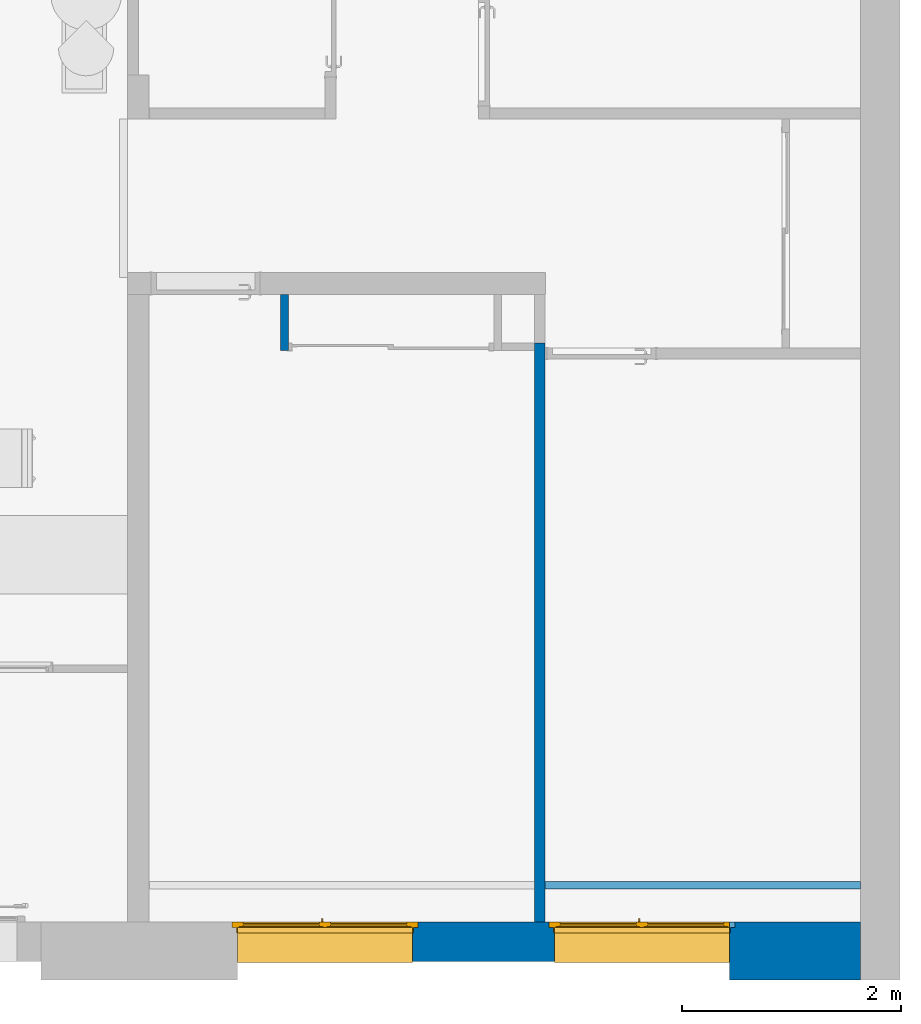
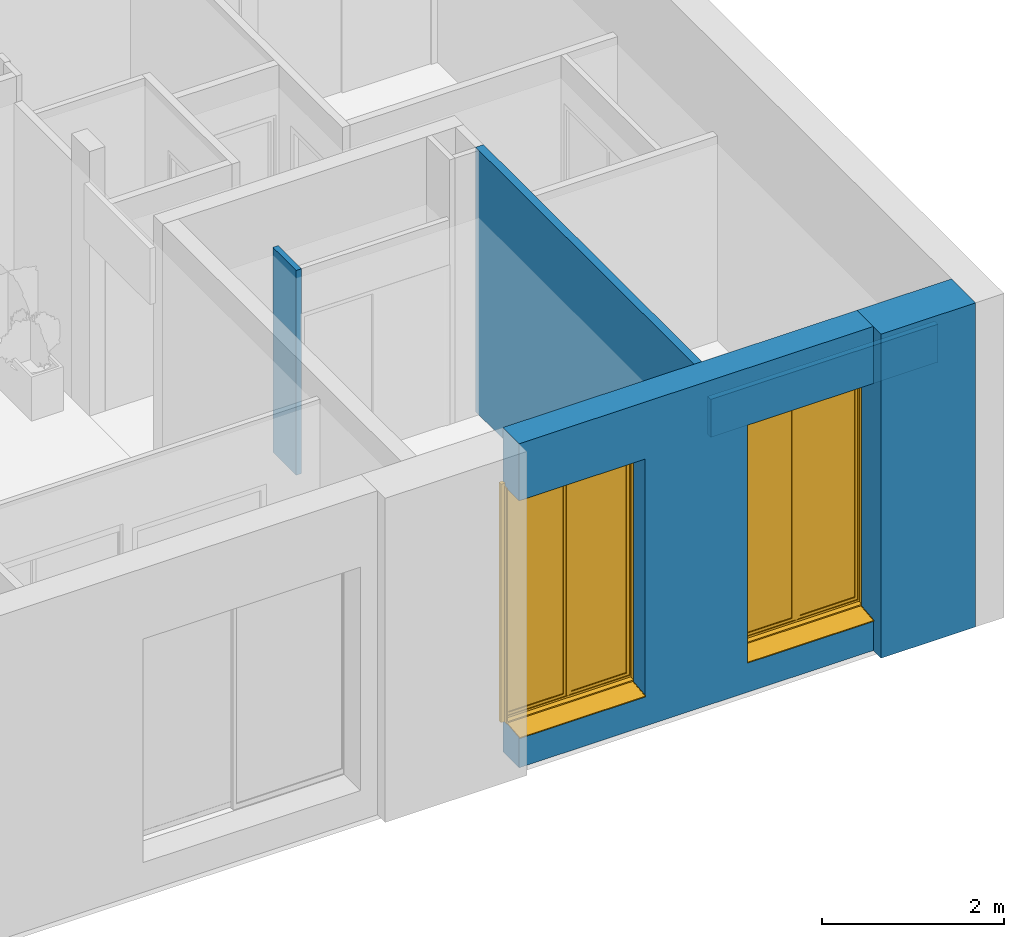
# One storey, part 13 of 32: 5 walls, 2 windows, 4 openings.
"""IFC2X3 building model written with IfcOpenShell, lengths in metres."""

from ifc_helpers import new_model, entity, si_unit, converted_unit, derived_unit, direction, frame, frame_2d, origin, origin_2d_with_axis, place, context, subcontext, project, spatial, polyline, circle_curve, parameter, trimmed, segment, composite_curve, rectangle, outline, extrude, faceted_brep, source, transform, mapped, material, material_list, layer, layer_set, layer_usage, type_object, type_shapes, element, fill, save


model = new_model("IFC2X3")

# Units and contexts
model_context = context("Model", 3, precision=1e-05, world=origin(), true_north=direction((6.12303176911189e-17, 1.0)))
plan_context = context("Plan", 3, precision=1e-05, world=origin(), true_north=direction((6.12303176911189e-17, 1.0)))
body_context = subcontext(model_context, "Body", "Model", "MODEL_VIEW")
ifc_project = project(units=[si_unit("LENGTHUNIT", "METRE"), si_unit("AREAUNIT", "SQUARE_METRE"), si_unit("VOLUMEUNIT", "CUBIC_METRE"), converted_unit("PLANEANGLEUNIT", "DEGREE", entity("IfcRatioMeasure", 0.0174532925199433), si_unit("PLANEANGLEUNIT", "RADIAN"), dimensions=[0, 0, 0, 0, 0, 0, 0]), si_unit("MASSUNIT", "GRAM", prefix="KILO"), derived_unit("MASSDENSITYUNIT", [(si_unit("MASSUNIT", "GRAM", prefix="KILO"), 1), (si_unit("LENGTHUNIT", "METRE"), -3)]), derived_unit("MOMENTOFINERTIAUNIT", [(si_unit("LENGTHUNIT", "METRE"), 4)]), si_unit("TIMEUNIT", "SECOND"), si_unit("FREQUENCYUNIT", "HERTZ"), si_unit("THERMODYNAMICTEMPERATUREUNIT", "DEGREE_CELSIUS"), derived_unit("THERMALTRANSMITTANCEUNIT", [(si_unit("MASSUNIT", "GRAM", prefix="KILO"), 1), (si_unit("THERMODYNAMICTEMPERATUREUNIT", "KELVIN"), -1), (si_unit("TIMEUNIT", "SECOND"), -3)]), derived_unit("VOLUMETRICFLOWRATEUNIT", [(si_unit("LENGTHUNIT", "METRE"), 3), (si_unit("TIMEUNIT", "SECOND"), -1)]), si_unit("ELECTRICCURRENTUNIT", "AMPERE"), si_unit("ELECTRICVOLTAGEUNIT", "VOLT"), si_unit("POWERUNIT", "WATT"), si_unit("FORCEUNIT", "NEWTON", prefix="KILO"), si_unit("ILLUMINANCEUNIT", "LUX"), si_unit("LUMINOUSFLUXUNIT", "LUMEN"), si_unit("LUMINOUSINTENSITYUNIT", "CANDELA"), derived_unit("USERDEFINED", [(si_unit("MASSUNIT", "GRAM", prefix="KILO"), -1), (si_unit("LENGTHUNIT", "METRE"), -2), (si_unit("TIMEUNIT", "SECOND"), 3), (si_unit("LUMINOUSFLUXUNIT", "LUMEN"), 1)]), derived_unit("LINEARVELOCITYUNIT", [(si_unit("LENGTHUNIT", "METRE"), 1), (si_unit("TIMEUNIT", "SECOND"), -1)]), si_unit("PRESSUREUNIT", "PASCAL"), derived_unit("USERDEFINED", [(si_unit("LENGTHUNIT", "METRE"), -2), (si_unit("MASSUNIT", "GRAM", prefix="KILO"), 1), (si_unit("TIMEUNIT", "SECOND"), -2)]), derived_unit("LINEARFORCEUNIT", [(si_unit("MASSUNIT", "GRAM", prefix="KILO"), 1), (si_unit("LENGTHUNIT", "METRE"), 1), (si_unit("TIMEUNIT", "SECOND"), -2), (si_unit("LENGTHUNIT", "METRE"), -1)]), derived_unit("PLANARFORCEUNIT", [(si_unit("MASSUNIT", "GRAM", prefix="KILO"), 1), (si_unit("LENGTHUNIT", "METRE"), 1), (si_unit("TIMEUNIT", "SECOND"), -2), (si_unit("LENGTHUNIT", "METRE"), -2)])], contexts=[model_context, plan_context])

# Site, building, storey
site_placement = place(None, origin())
site = spatial("IfcSite", under=ifc_project, at=site_placement, Name="Default", CompositionType="ELEMENT")
building_placement = place(site_placement, origin())
building = spatial("IfcBuilding", under=site, at=building_placement, CompositionType="ELEMENT")
storey_placement = place(building_placement, origin())
storey = spatial("IfcBuildingStorey", under=building, at=storey_placement, Name="0 Mairie RDC 0.00", CompositionType="ELEMENT", Elevation=-1.94916083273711e-14)

# Wall, opening
ifc_material_1 = material(Name="Plâtre")
ifc_layer_1 = layer(ifc_material_1, 0.0125)
ifc_layer_2 = layer(ifc_material_1, 0.0125)
ifc_material_2 = material(Name="Maçonnerie - Isolant")
ifc_layer_3 = layer(ifc_material_2, 0.05)
ifc_layer_4 = layer(ifc_material_1, 0.0125)
ifc_layer_5 = layer(ifc_material_1, 0.0125)
ifc_layer_set_1 = layer_set([ifc_layer_1, ifc_layer_2, ifc_layer_3, ifc_layer_4, ifc_layer_5], Name="Mur de base:A cloison placostil 98 sèche")
ifc_layer_usage_1 = layer_usage(ifc_layer_set_1, "AXIS2", "NEGATIVE", 0.05)
wall_type_1 = type_object("IfcWallType", Name="Murs : Mur de base : A cloison placostil 98 sèche", PredefinedType="STANDARD", material=ifc_layer_set_1)
wall_1_placement = place(storey_placement, frame((-1.15639222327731, -13.9785662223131, 0.0), z_axis=(0.0, 0.0, 1.0), x_axis=(0.0, 1.0, 0.0)))
wall_1 = element("IfcWallStandardCase", 1, at=wall_1_placement, inside=storey, type_object=wall_type_1, material=ifc_layer_usage_1, Name="Murs : Mur de base : A cloison placostil 98 sèche", ObjectType="Mur de base:A cloison placostil 98 sèche", context=body_context, shape_type="SweptSolid", body=[
    extrude(rectangle(XDim=5.29680921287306, YDim=0.1, at=frame_2d((2.64840460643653, 0.0), x_axis=(-1.0, 0.0))), origin(), (0.0, 0.0, 1.0), 3.55),
])
opening_1_placement = place(wall_1_placement, frame((5.14746237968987, -0.0649999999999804, 0.0)))
element("IfcOpeningElement", 2, at=opening_1_placement, cuts=wall_1, Name="Murs : Mur de base : A cloison placostil 98 sèche", ObjectType="Opening", context=body_context, shape_type="SweptSolid", body=[
    extrude(rectangle(XDim=2.075, YDim=0.1, at=frame_2d((5.41233724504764e-16, 0.0), x_axis=(0.0, 1.0))), frame((0.0499999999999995, -1.0, 1.0375), z_axis=(0.0, 1.0, 0.0), x_axis=(-1.0, 0.0, 0.0)), (0.0, 0.0, 1.0), 1.0),
])

# Walls
ifc_layer_6 = layer(ifc_material_1, 0.01)
ifc_layer_7 = layer(ifc_material_2, 0.05)
ifc_layer_8 = layer(ifc_material_1, 0.01)
ifc_layer_set_2 = layer_set([ifc_layer_6, ifc_layer_7, ifc_layer_8], Name="Mur de base:A cloison placostil 72 sèche")
ifc_layer_usage_2 = layer_usage(ifc_layer_set_2, "AXIS2", "NEGATIVE", 0.035)
wall_type_2 = type_object("IfcWallType", Name="Murs : Mur de base : A cloison placostil 72 sèche", PredefinedType="STANDARD", material=ifc_layer_set_2)
wall_2_placement = place(storey_placement, frame((-3.49104062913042, -8.75175700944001, 0.0), z_axis=(0.0, 0.0, 1.0), x_axis=(0.0, 1.0, 0.0)))
element("IfcWallStandardCase", 3, at=wall_2_placement, inside=storey, type_object=wall_type_2, material=ifc_layer_usage_2, Name="Murs : Mur de base : A cloison placostil 72 sèche", ObjectType="Mur de base:A cloison placostil 72 sèche", context=body_context, shape_type="SweptSolid", body=[
    extrude(rectangle(XDim=0.513488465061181, YDim=0.0700000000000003, at=frame_2d((0.25674423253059, 0.0), x_axis=(-1.0, 0.0))), origin(), (0.0, 0.0, 1.0), 2.75),
])
ifc_layer_usage_3 = layer_usage(ifc_layer_set_2, "AXIS2", "POSITIVE", -0.035)
wall_3_placement = place(storey_placement, frame((-1.10639222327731, -13.6435662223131, 2.65)))
element("IfcWallStandardCase", 4, at=wall_3_placement, inside=storey, type_object=wall_type_2, material=ifc_layer_usage_3, Name="Murs : Mur de base : A cloison placostil 72 sèche", ObjectType="Mur de base:A cloison placostil 72 sèche", context=body_context, shape_type="SweptSolid", body=[
    extrude(rectangle(XDim=2.88400782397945, YDim=0.0700000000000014, at=frame_2d((1.44200391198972, 3.81639164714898e-16), x_axis=(-1.0, 0.0))), origin(), (0.0, 0.0, 1.0), 0.510000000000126),
])

# Wall, openings, windows
ifc_material_3 = material(Name="Maçonnerie - Enduit")
ifc_layer_9 = layer(ifc_material_3, 0.02)
ifc_material_4 = material(Name="Béton, coulé sur place")
ifc_layer_10 = layer(ifc_material_4, 0.2)
ifc_material_5 = material(Name="Vide")
ifc_layer_11 = layer(ifc_material_5, 0.01)
ifc_layer_12 = layer(ifc_material_2, 0.12)
ifc_layer_13 = layer(ifc_material_1, 0.01)
ifc_layer_set_3 = layer_set([ifc_layer_9, ifc_layer_10, ifc_layer_11, ifc_layer_12, ifc_layer_13], Name="Mur de base:A Enduit 2 + Béton 20 + vide 1 +  Doublage 13")
ifc_layer_usage_4 = layer_usage(ifc_layer_set_3, "AXIS2", "POSITIVE", -0.18)
wall_type_3 = type_object("IfcWallType", Name="Murs : Mur de base : A Enduit 2 + Béton 20 + vide 1 +  Doublage 13", PredefinedType="STANDARD", material=ifc_layer_set_3)
wall_4_placement = place(storey_placement, frame((-3.92016256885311, -14.1585662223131, -0.400000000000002)))
wall_4 = element("IfcWallStandardCase", 5, at=wall_4_placement, inside=storey, type_object=wall_type_3, material=ifc_layer_usage_4, Name="Murs : Mur de base : A Enduit 2 + Béton 20 + vide 1 +  Doublage 13", ObjectType="Mur de base:A Enduit 2 + Béton 20 + vide 1 +  Doublage 13", context=body_context, shape_type="SweptSolid", body=[
    extrude(rectangle(XDim=4.49771747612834, YDim=0.36, at=frame_2d((2.24885873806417, 3.33066907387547e-16), x_axis=(-1.0, 0.0))), origin(), (0.0, 0.0, 1.0), 4.35000000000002),
])
opening_2_placement = place(wall_4_placement, frame((-0.0500000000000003, -0.500000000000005, 0.400000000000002)))
opening_2 = element("IfcOpeningElement", 6, at=opening_2_placement, cuts=wall_4, Name="Murs : Mur de base : A Enduit 2 + Béton 20 + vide 1 +  Doublage 13", ObjectType="Opening", context=body_context, shape_type="Brep", body=[
    faceted_brep([(1.65, 0.599999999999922, 0.0350000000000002), (1.65, 0.579999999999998, 0.0350000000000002), (1.65, 0.579999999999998, 3.185), (1.65, 0.0, 3.185), (1.65, 0.0, 0.0), (1.65, 0.266997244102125, 0.0), (0.0500000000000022, 1.0, 0.0350000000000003), (0.0500000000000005, 0.680000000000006, 0.0350000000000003), (0.0500000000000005, 0.680000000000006, 3.185), (0.0500000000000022, 1.0, 3.185), (1.65, 1.0, 0.0350000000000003), (1.65, 0.680000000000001, 0.0350000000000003), (1.7, 0.680000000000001, 0.0350000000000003), (1.7, 0.630000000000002, 0.0350000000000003), (1.66, 0.630000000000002, 0.0350000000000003), (1.66, 0.579999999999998, 0.0350000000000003), (0.05, 0.599999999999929, 0.0349999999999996), (0.0499999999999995, 0.580000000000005, 0.0350000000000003), (0.0399999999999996, 0.580000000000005, 0.0350000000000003), (0.0399999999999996, 0.630000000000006, 0.0350000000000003), (0.0, 0.630000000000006, 0.0350000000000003), (0.0, 0.680000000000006, 0.0350000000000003), (1.65, 1.0, 3.185), (0.05, 0.580000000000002, 3.185), (0.0499999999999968, 0.0, 3.185), (0.0499999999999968, 0.0, 0.0), (0.0499999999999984, 0.266997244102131, 0.0), (1.7, 0.680000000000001, 3.235), (1.7, 0.630000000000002, 3.235), (0.0, 0.630000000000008, 3.235), (0.0399999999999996, 0.630000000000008, 3.195), (1.66, 0.630000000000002, 3.195), (1.66, 0.579999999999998, 3.195), (0.0399999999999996, 0.580000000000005, 3.195), (1.65, 0.680000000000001, 3.185), (0.0, 0.680000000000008, 3.235)], [[[0, 1, 2, 3, 4, 5]], [[6, 7, 8, 9]], [[10, 11, 12, 13, 14, 15, 1, 0, 16, 17, 18, 19, 20, 21, 7, 6]], [[10, 6, 9, 22]], [[3, 2, 23, 24]], [[3, 24, 25, 4]], [[4, 25, 26, 5]], [[5, 26, 16, 0]], [[12, 27, 28, 13]], [[13, 28, 29, 20, 19, 30, 31, 14]], [[14, 31, 32, 15]], [[15, 32, 33, 18, 17, 23, 2, 1]], [[11, 34, 8, 7, 21, 35, 27, 12]], [[27, 35, 29, 28]], [[30, 33, 32, 31]], [[29, 35, 21, 20]], [[19, 18, 33, 30]], [[9, 8, 34, 22]], [[24, 23, 17, 16, 26, 25]], [[22, 34, 11, 10]]]),
])
opening_3_placement = place(wall_4_placement, frame((2.84777816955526, -0.500000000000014, 0.400000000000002)))
opening_3 = element("IfcOpeningElement", 7, at=opening_3_placement, cuts=wall_4, Name="Murs : Mur de base : A Enduit 2 + Béton 20 + vide 1 +  Doublage 13", ObjectType="Opening", context=body_context, shape_type="Brep", body=[
    faceted_brep([(1.65, 0.59999999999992, 0.035), (1.65, 0.579999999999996, 0.035), (1.65, 0.579999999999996, 3.185), (1.65, 0.0, 3.185), (1.65, 0.0, 0.0), (1.65, 0.266997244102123, 0.0), (0.050000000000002, 1.0, 0.0350000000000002), (0.0500000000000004, 0.680000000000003, 0.0350000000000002), (0.0500000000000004, 0.680000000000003, 3.185), (0.050000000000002, 1.0, 3.185), (1.65, 1.0, 0.0350000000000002), (1.65, 0.679999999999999, 0.0350000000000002), (1.7, 0.679999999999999, 0.0350000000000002), (1.7, 0.63, 0.0350000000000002), (1.66, 0.63, 0.0350000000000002), (1.66, 0.579999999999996, 0.0350000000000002), (0.05, 0.599999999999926, 0.0349999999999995), (0.0499999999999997, 0.580000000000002, 0.0350000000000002), (0.0399999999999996, 0.580000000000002, 0.0350000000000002), (0.0399999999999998, 0.630000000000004, 0.0350000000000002), (0.0, 0.630000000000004, 0.0350000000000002), (0.0, 0.680000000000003, 0.0350000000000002), (1.65, 1.0, 3.185), (0.0499999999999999, 0.58, 3.185), (0.0499999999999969, 0.0, 3.185), (0.0499999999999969, 0.0, 0.0), (0.0499999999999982, 0.266997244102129, 0.0), (1.7, 0.679999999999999, 3.235), (1.7, 0.63, 3.235), (0.0, 0.630000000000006, 3.235), (0.0399999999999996, 0.630000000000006, 3.195), (1.66, 0.63, 3.195), (1.66, 0.579999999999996, 3.195), (0.0399999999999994, 0.580000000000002, 3.195), (1.65, 0.679999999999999, 3.185), (0.0, 0.680000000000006, 3.235)], [[[0, 1, 2, 3, 4, 5]], [[6, 7, 8, 9]], [[10, 11, 12, 13, 14, 15, 1, 0, 16, 17, 18, 19, 20, 21, 7, 6]], [[10, 6, 9, 22]], [[3, 2, 23, 24]], [[3, 24, 25, 4]], [[4, 25, 26, 5]], [[5, 26, 16, 0]], [[12, 27, 28, 13]], [[13, 28, 29, 20, 19, 30, 31, 14]], [[14, 31, 32, 15]], [[15, 32, 33, 18, 17, 23, 2, 1]], [[11, 34, 8, 7, 21, 35, 27, 12]], [[27, 35, 29, 28]], [[30, 33, 32, 31]], [[29, 35, 21, 20]], [[19, 18, 33, 30]], [[9, 8, 34, 22]], [[24, 23, 17, 16, 26, 25]], [[22, 34, 11, 10]]]),
])
ifc_material_6 = material(Name="PVC Blanc")
ifc_material_7 = material(Name="Fenêtre - Vitrage")
ifc_material_list = material_list([ifc_material_7, ifc_material_6])
window_style = type_object("IfcWindowStyle", Name="Fenêtres : PF 2 Vantaux - Droits : 1.60 x 3.15", ConstructionType="NOTDEFINED", OperationType="DOUBLE_PANEL_VERTICAL", ParameterTakesPrecedence=False, Sizeable=False, material=ifc_material_list)
shared_shape = source(origin(), body_context, "Body", "SolidModel", [
    extrude(outline(polyline([(-0.0233345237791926, -0.0332340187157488), (-0.0162634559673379, -0.0332340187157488), (0.0332340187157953, 0.0162634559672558), (0.0332340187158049, 0.0233345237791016), (0.0233345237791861, 0.0332340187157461), (0.0162634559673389, 0.0332340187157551), (-0.0332340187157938, -0.0162634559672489), (-0.0332340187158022, -0.0233345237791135), (-0.0233345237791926, -0.0332340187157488)])), frame((0.875000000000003, 0.314000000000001, 1.1), z_axis=(0.0, 1.0, 0.0), x_axis=(0.707106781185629, 0.0, -0.707106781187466)), (0.0, 0.0, 1.0), 0.00599999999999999),
    extrude(outline(polyline([(-0.145647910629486, 0.00157280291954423), (-0.14680589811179, -0.00944471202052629), (-0.141778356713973, -0.0094447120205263), (-0.141169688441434, -0.003653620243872), (0.145429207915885, -0.00365362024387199), (0.146997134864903, 0.0112642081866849), (0.142024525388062, 0.0117868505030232), (0.140950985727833, 0.00157280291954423), (-0.145647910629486, 0.00157280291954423)])), frame((0.05, 0.545014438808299, 0.0234321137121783), z_axis=(-1.0, 0.0, 0.0), x_axis=(0.0, -0.994521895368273, 0.104528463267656)), (0.0, 0.0, -1.0), 1.6),
    extrude(outline(composite_curve([segment(polyline([(-0.014354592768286, -0.11472792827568), (-0.0129286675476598, -0.11472792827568)]), True, "CONTINUOUS"), segment(trimmed(circle_curve(frame_2d((-0.0129286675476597, -0.11072792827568), x_axis=(0.0, 1.0)), 0.004), [parameter(180.0)], [parameter(264.0)], True, "PARAMETER"), True, "CONTINUOUS"), segment(polyline([(-0.00895057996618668, -0.111146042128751), (0.0206306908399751, 0.170300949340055)]), True, "CONTINUOUS"), segment(polyline([(0.0206306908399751, 0.170300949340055), (0.0156031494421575, 0.170300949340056)]), True, "CONTINUOUS"), segment(polyline([(0.0156031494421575, 0.170300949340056), (-0.014354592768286, -0.11472792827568)]), True, "CONTINUOUS")], self_intersect=False)), frame((0.0499999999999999, 0.575300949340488, 0.0241265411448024), z_axis=(1.0, 0.0, 0.0), x_axis=(0.0, 0.0, 1.0)), (0.0, 0.0, 1.0), 0.00499999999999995),
    extrude(outline(composite_curve([segment(polyline([(-0.0143545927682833, -0.11472792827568), (-0.0129286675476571, -0.11472792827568)]), True, "CONTINUOUS"), segment(trimmed(circle_curve(frame_2d((-0.0129286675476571, -0.11072792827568), x_axis=(0.0, 1.0)), 0.004), [parameter(180.0)], [parameter(264.0)], True, "PARAMETER"), True, "CONTINUOUS"), segment(polyline([(-0.00895057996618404, -0.111146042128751), (0.020630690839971, 0.170300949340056)]), True, "CONTINUOUS"), segment(polyline([(0.020630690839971, 0.170300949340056), (0.0156031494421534, 0.170300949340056)]), True, "CONTINUOUS"), segment(polyline([(0.0156031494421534, 0.170300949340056), (-0.0143545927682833, -0.11472792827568)]), True, "CONTINUOUS")], self_intersect=False)), frame((1.645, 0.575300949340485, 0.0241265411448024), z_axis=(1.0, 0.0, 0.0), x_axis=(0.0, 0.0, 1.0)), (0.0, 0.0, 1.0), 0.00499999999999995),
    extrude(outline(polyline([(-0.400000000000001, -1.55), (0.400000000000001, -1.55), (0.400000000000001, 1.55), (-0.400000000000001, 1.55), (-0.400000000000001, -1.55)]), holes=[polyline([(0.350000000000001, -1.5), (-0.350000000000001, -1.5), (-0.350000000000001, 1.5), (0.350000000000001, 1.5), (0.350000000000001, -1.5)])]), frame((0.449999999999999, 0.320000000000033, 1.635), z_axis=(0.0, 1.0, 0.0), x_axis=(-1.0, 0.0, 0.0)), (0.0, 0.0, 1.0), 0.0399999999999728),
    extrude(rectangle(XDim=0.012, YDim=0.700000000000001, at=origin_2d_with_axis()), frame((1.25, 0.339999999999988, 0.135), z_axis=(0.0, 0.0, 1.0), x_axis=(0.0, -1.0, 0.0)), (0.0, 0.0, 1.0), 3.0),
    extrude(rectangle(XDim=0.012, YDim=0.700000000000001, at=origin_2d_with_axis()), frame((0.449999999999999, 0.339999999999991, 0.135), z_axis=(0.0, 0.0, 1.0), x_axis=(0.0, -1.0, 0.0)), (0.0, 0.0, 1.0), 3.0),
    extrude(outline(polyline([(-0.399999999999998, -1.55), (0.400000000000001, -1.55), (0.399999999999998, 1.55), (-0.400000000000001, 1.55), (-0.399999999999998, -1.55)]), holes=[polyline([(0.350000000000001, -1.5), (-0.349999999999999, -1.5), (-0.350000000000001, 1.5), (0.349999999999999, 1.5), (0.350000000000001, -1.5)])]), frame((1.25, 0.319999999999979, 1.635), z_axis=(0.0, 1.0, 0.0), x_axis=(-1.0, 0.0, 0.0)), (0.0, 0.0, 1.0), 0.0399999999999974),
    extrude(outline(polyline([(-1.5775, -0.81), (1.5825, -0.81), (1.5825, 0.81), (-1.5775, 0.810000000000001), (-1.5775, 0.8), (1.5725, 0.8), (1.5725, -0.8), (-1.5775, -0.8), (-1.5775, -0.81)])), frame((0.85, 0.37, 1.6125), z_axis=(0.0, 1.0, 0.0), x_axis=(0.0, 0.0, 1.0)), (0.0, 0.0, 1.0), 0.0500000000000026),
    extrude(rectangle(XDim=0.0400000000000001, YDim=0.00799999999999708, at=frame_2d((0.0, 8.23993651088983e-18), x_axis=(1.0, 0.0))), frame((0.85, 0.363999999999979, 0.0999999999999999), z_axis=(0.0, 0.0, 1.0), x_axis=(-1.0, 0.0, 0.0)), (0.0, 0.0, 1.0), 3.07),
    faceted_brep([(0.880646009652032, 0.313999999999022, 1.12203392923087), (0.882033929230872, 0.313999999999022, 1.12064600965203), (0.882033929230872, 0.313999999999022, 1.10933230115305), (0.880667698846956, 0.313999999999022, 1.10796607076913), (0.869332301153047, 0.313999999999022, 1.10796607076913), (0.867966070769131, 0.313999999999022, 1.10933230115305), (0.867966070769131, 0.313999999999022, 1.12064600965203), (0.869353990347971, 0.313999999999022, 1.12203392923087), (0.880646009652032, 0.301086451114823, 1.12203392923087), (0.882033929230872, 0.301661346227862, 1.12064600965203), (0.882033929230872, 0.288353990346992, 1.10733865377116), (0.882033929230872, 0.288353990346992, 1.02), (0.882033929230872, 0.299667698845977, 1.02), (0.882033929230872, 0.299667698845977, 1.10265236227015), (0.882033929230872, 0.306347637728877, 1.10933230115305), (0.880667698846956, 0.306913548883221, 1.10796607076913), (0.869332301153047, 0.306913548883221, 1.10796607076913), (0.867966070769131, 0.306347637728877, 1.10933230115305), (0.867966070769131, 0.299667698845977, 1.10265236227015), (0.867966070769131, 0.299667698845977, 1.02), (0.867966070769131, 0.288353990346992, 1.02), (0.867966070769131, 0.288353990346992, 1.10733865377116), (0.867966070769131, 0.301661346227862, 1.12064600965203), (0.869353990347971, 0.301086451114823, 1.12203392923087), (0.880646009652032, 0.286966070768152, 1.1079135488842), (0.880667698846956, 0.301033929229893, 1.1020864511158), (0.869332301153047, 0.301033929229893, 1.1020864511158), (0.869353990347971, 0.286966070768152, 1.1079135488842), (0.880646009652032, 0.286966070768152, 1.02), (0.869353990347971, 0.286966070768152, 1.02), (0.869332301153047, 0.301033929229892, 1.02), (0.880667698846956, 0.301033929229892, 1.02)], [[[0, 1, 2, 3, 4, 5, 6, 7]], [[1, 0, 8, 9]], [[2, 1, 9, 10, 11, 12, 13, 14]], [[3, 2, 14, 15]], [[4, 3, 15, 16]], [[5, 4, 16, 17]], [[6, 5, 17, 18, 19, 20, 21, 22]], [[7, 6, 22, 23]], [[0, 7, 23, 8]], [[9, 8, 24, 10]], [[15, 14, 13, 25]], [[16, 15, 25, 26]], [[17, 16, 26, 18]], [[23, 22, 21, 27]], [[8, 23, 27, 24]], [[28, 29, 20, 19, 30, 31, 12, 11]], [[10, 24, 28, 11]], [[25, 13, 12, 31]], [[26, 25, 31, 30]], [[18, 26, 30, 19]], [[27, 21, 20, 29]], [[24, 27, 29, 28]]]),
    faceted_brep([(0.0, 0.320000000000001, 0.0350000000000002), (0.0, 0.370000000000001, 0.0350000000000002), (0.0499999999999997, 0.370000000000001, 0.0350000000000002), (0.0499999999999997, 0.399999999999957, 0.0350000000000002), (1.65, 0.399999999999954, 0.0350000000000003), (1.65, 0.370000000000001, 0.0350000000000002), (1.7, 0.370000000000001, 0.0350000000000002), (1.7, 0.320000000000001, 0.0350000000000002), (0.0, 0.320000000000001, 3.235), (0.0, 0.370000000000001, 3.235), (1.7, 0.370000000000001, 3.235), (1.65, 0.370000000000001, 0.0743761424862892), (0.0499999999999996, 0.370000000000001, 0.0743761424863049), (0.0649999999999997, 0.370000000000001, 3.17), (0.0649999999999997, 0.370000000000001, 0.0999999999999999), (1.635, 0.370000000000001, 0.1), (1.635, 0.370000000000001, 3.17), (0.0499999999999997, 0.419999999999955, 0.060978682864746), (0.0499999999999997, 0.419999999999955, 0.0450000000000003), (0.0499999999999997, 0.40999999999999, 0.0450000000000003), (0.0499999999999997, 0.40999999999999, 0.050000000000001), (0.0499999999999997, 0.399999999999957, 0.050000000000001), (1.65, 0.399999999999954, 0.050000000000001), (1.65, 0.409999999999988, 0.050000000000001), (1.65, 0.409999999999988, 0.0450000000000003), (1.65, 0.419999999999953, 0.0450000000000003), (1.65, 0.419999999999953, 0.060978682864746), (1.7, 0.320000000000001, 3.235), (1.65, 0.320000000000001, 3.185), (1.65, 0.32, 0.0850000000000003), (0.0499999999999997, 0.320000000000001, 0.0850000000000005), (0.0499999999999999, 0.320000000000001, 3.185), (0.0649999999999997, 0.360000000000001, 3.17), (0.0649999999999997, 0.360000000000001, 0.0999999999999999), (1.635, 0.360000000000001, 0.1), (1.635, 0.360000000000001, 3.17), (1.65, 0.360000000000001, 3.185), (0.0499999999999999, 0.360000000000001, 3.185), (0.0499999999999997, 0.360000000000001, 0.0850000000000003), (1.65, 0.360000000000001, 0.0850000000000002)], [[[0, 1, 2, 3, 4, 5, 6, 7]], [[1, 0, 8, 9]], [[1, 9, 10, 6, 5, 11, 12, 2], [13, 14, 15, 16]], [[12, 17, 18, 19, 20, 21, 3, 2]], [[3, 21, 22, 4]], [[4, 22, 23, 24, 25, 26, 11, 5]], [[6, 10, 27, 7]], [[0, 7, 27, 8], [28, 29, 30, 31]], [[13, 32, 33, 14]], [[33, 34, 15, 14]], [[35, 16, 15, 34]], [[17, 12, 11, 26]], [[36, 37, 38, 39], [32, 35, 34, 33]], [[38, 37, 31, 30]], [[30, 29, 39, 38]], [[28, 36, 39, 29]], [[18, 17, 26, 25]], [[19, 18, 25, 24]], [[20, 19, 24, 23]], [[21, 20, 23, 22]], [[13, 16, 35, 32]], [[37, 36, 28, 31]], [[10, 9, 8, 27]]]),
])
type_shapes(window_style, [shared_shape])
window_1_placement = place(opening_2_placement, frame((1.7, 1.0, 0.0), z_axis=(0.0, 0.0, 1.0), x_axis=(-1.0, 0.0, 0.0)))
window_1 = element("IfcWindow", 8, at=window_1_placement, inside=storey, type_object=window_style, material=ifc_material_6, Name="Fenêtres : PF 2 Vantaux - Droits : 1.60 x 3.15", ObjectType="PF 2 Vantaux - Droits:1.60 x 3.15", OverallHeight=3.265, OverallWidth=1.7, context=body_context, shape_type="MappedRepresentation", body=[
    mapped(shared_shape, transform((0.0, 0.0, 0.0), scale=1.0)),
])
fill(opening_2, window_1)
window_2_placement = place(opening_3_placement, frame((1.7, 1.0, 0.0), z_axis=(0.0, 0.0, 1.0), x_axis=(-1.0, 0.0, 0.0)))
window_2 = element("IfcWindow", 9, at=window_2_placement, inside=storey, type_object=window_style, material=ifc_material_6, Name="Fenêtres : PF 2 Vantaux - Droits : 1.60 x 3.15", ObjectType="PF 2 Vantaux - Droits:1.60 x 3.15", OverallHeight=3.265, OverallWidth=1.7, context=body_context, shape_type="MappedRepresentation", body=[
    mapped(shared_shape, transform((0.0, 0.0, 0.0), scale=1.0)),
])
fill(opening_3, window_2)

# Wall, opening
ifc_material_8 = material(Name="Moellons")
ifc_layer_14 = layer(ifc_material_8, 0.19)
ifc_layer_15 = layer(ifc_material_4, 0.2)
ifc_layer_16 = layer(ifc_material_5, 0.01)
ifc_layer_17 = layer(ifc_material_2, 0.12)
ifc_layer_18 = layer(ifc_material_1, 0.01)
ifc_layer_set_4 = layer_set([ifc_layer_14, ifc_layer_15, ifc_layer_16, ifc_layer_17, ifc_layer_18], Name="Mur de base:A Parement pierre 19 + Béton 20 + vide 1 +   Doublage 14")
ifc_layer_usage_5 = layer_usage(ifc_layer_set_4, "AXIS2", "POSITIVE", -0.265)
wall_type_4 = type_object("IfcWallType", Name="Murs : Mur de base : A Parement pierre 19 + Béton 20 + vide 1 +   Doublage 14", PredefinedType="STANDARD", material=ifc_layer_set_4)
wall_5_placement = place(storey_placement, frame((0.577554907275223, -14.2435662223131, -0.400000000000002)))
wall_5 = element("IfcWallStandardCase", 10, at=wall_5_placement, inside=storey, type_object=wall_type_4, material=ifc_layer_usage_5, Name="Murs : Mur de base : A Parement pierre 19 + Béton 20 + vide 1 +   Doublage 14", ObjectType="Mur de base:A Parement pierre 19 + Béton 20 + vide 1 +   Doublage 14", context=body_context, shape_type="SweptSolid", body=[
    extrude(rectangle(XDim=1.20006069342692, YDim=0.530000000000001, at=frame_2d((0.60003034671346, -5.55111512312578e-17), x_axis=(-1.0, 0.0))), origin(), (0.0, 0.0, 1.0), 4.35),
])
opening_4_placement = place(wall_5_placement, frame((-1.64993930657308, -0.415000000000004, 0.400000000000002)))
element("IfcOpeningElement", 11, at=opening_4_placement, cuts=wall_5, Name="Murs : Mur de base : A Parement pierre 19 + Béton 20 + vide 1 +   Doublage 14", ObjectType="Opening", context=body_context, shape_type="Brep", body=[
    faceted_brep([(1.65, 0.599999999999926, 0.035), (1.65, 0.580000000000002, 0.035), (1.65, 0.580000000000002, 3.185), (1.65, 0.0, 3.185), (1.65, 0.0, 0.0), (1.65, 0.266997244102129, 0.0), (0.0499999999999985, 1.0, 0.0350000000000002), (0.049999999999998, 0.680000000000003, 0.0350000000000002), (0.049999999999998, 0.680000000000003, 3.185), (0.0499999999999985, 1.0, 3.185), (1.65, 1.0, 0.0350000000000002), (1.65, 0.680000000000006, 0.0350000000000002), (1.7, 0.680000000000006, 0.0350000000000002), (1.7, 0.630000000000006, 0.0350000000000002), (1.66, 0.630000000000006, 0.0350000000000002), (1.66, 0.580000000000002, 0.0350000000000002), (0.0499999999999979, 0.599999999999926, 0.0349999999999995), (0.0499999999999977, 0.580000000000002, 0.0350000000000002), (0.0399999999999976, 0.580000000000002, 0.0350000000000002), (0.0399999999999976, 0.630000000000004, 0.0350000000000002), (0.0, 0.630000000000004, 0.0350000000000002), (0.0, 0.680000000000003, 0.0350000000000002), (1.65, 1.0, 3.185), (0.0499999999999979, 0.58, 3.185), (0.0499999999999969, 0.0, 3.185), (0.0499999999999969, 0.0, 0.0), (0.0499999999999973, 0.266997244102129, 0.0), (1.7, 0.680000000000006, 3.235), (1.7, 0.630000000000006, 3.235), (0.0, 0.630000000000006, 3.235), (0.0399999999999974, 0.630000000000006, 3.195), (1.66, 0.630000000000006, 3.195), (1.66, 0.580000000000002, 3.195), (0.0399999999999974, 0.580000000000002, 3.195), (1.65, 0.680000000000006, 3.185), (0.0, 0.680000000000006, 3.235)], [[[0, 1, 2, 3, 4, 5]], [[6, 7, 8, 9]], [[10, 11, 12, 13, 14, 15, 1, 0, 16, 17, 18, 19, 20, 21, 7, 6]], [[10, 6, 9, 22]], [[3, 2, 23, 24]], [[3, 24, 25, 4]], [[4, 25, 26, 5]], [[5, 26, 16, 0]], [[12, 27, 28, 13]], [[13, 28, 29, 20, 19, 30, 31, 14]], [[14, 31, 32, 15]], [[15, 32, 33, 18, 17, 23, 2, 1]], [[11, 34, 8, 7, 21, 35, 27, 12]], [[27, 35, 29, 28]], [[30, 33, 32, 31]], [[29, 35, 21, 20]], [[19, 18, 33, 30]], [[9, 8, 34, 22]], [[24, 23, 17, 16, 26, 25]], [[22, 34, 11, 10]]]),
])

save(model, "model.ifc")
